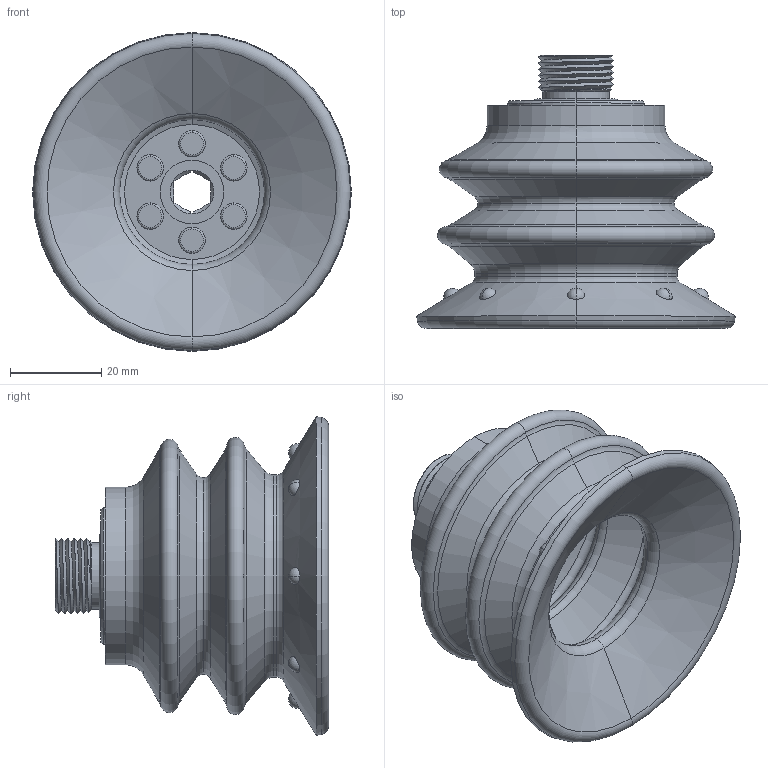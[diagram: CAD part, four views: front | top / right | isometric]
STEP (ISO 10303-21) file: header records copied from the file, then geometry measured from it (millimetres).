
FILE_DESCRIPTION (( 'STEP AP214' ), '1' );
FILE_NAME ('96C 70 M38 .step', '2024-12-16T07:15:45', ( '' ), ( '' ), 'SwSTEP 2.0', 'SolidWorks 2021', '' );
FILE_SCHEMA (( 'AUTOMOTIVE_DESIGN' ));
Length unit declared in the file: millimetre
Products named in the file (1): 96C 70 M38 
Bounding box: 70 x 60 x 70 mm (x, y, z)
Volume: 45750.1 mm3; surface area: 29753.5 mm2
Topology: 3 solids, 3 shells, 200 faces, 433 edges, 260 vertices
Faces by surface type: cylinder 60, torus 52, cone 38, plane 32, sphere 16, bspline 2
Entity records: 8931 total; most frequent: CARTESIAN_POINT 4121, DIRECTION 1009, ORIENTED_EDGE 864, AXIS2_PLACEMENT_3D 449, EDGE_CURVE 432, VERTEX_POINT 258, CIRCLE 250, EDGE_LOOP 226
